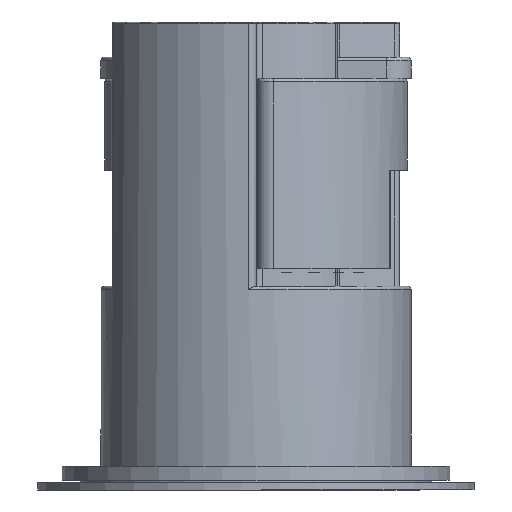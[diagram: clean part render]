
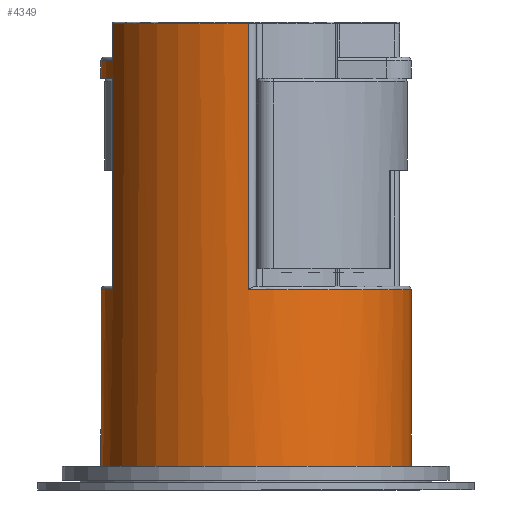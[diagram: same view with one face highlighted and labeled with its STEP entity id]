
A CAD part, front view. The second image highlights one B-rep face of the part: STEP entity #4349.
In plain terms, the highlighted cylindrical face has radius 22 mm (diameter 44 mm), a full revolution.
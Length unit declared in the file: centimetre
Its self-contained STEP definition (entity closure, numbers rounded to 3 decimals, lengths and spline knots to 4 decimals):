
#173=LINE('',#6755,#450);
#174=LINE('',#6757,#451);
#175=LINE('',#6761,#452);
#176=LINE('',#6765,#453);
#177=LINE('',#6769,#454);
#178=LINE('',#6773,#455);
#179=LINE('',#6778,#456);
#180=LINE('',#6782,#457);
#181=LINE('',#6786,#458);
#450=VECTOR('',#5248,1.);
#451=VECTOR('',#5249,1.);
#452=VECTOR('',#5252,1.);
#453=VECTOR('',#5255,1.);
#454=VECTOR('',#5258,1.);
#455=VECTOR('',#5261,2.2);
#456=VECTOR('',#5266,1.);
#457=VECTOR('',#5269,1.);
#458=VECTOR('',#5272,1.);
#727=CYLINDRICAL_SURFACE('',#4639,2.2);
#839=FACE_OUTER_BOUND('',#1103,.T.);
#1103=EDGE_LOOP('',(#2776,#2777,#2778,#2779,#2780,#2781,#2782,#2783,#2784,
#2785,#2786,#2787,#2788,#2789,#2790,#2791,#2792,#2793,#2794,#2795));
#1391=CIRCLE('',#4637,2.2);
#1393=CIRCLE('',#4640,2.2);
#1394=CIRCLE('',#4641,2.2);
#1395=CIRCLE('',#4642,2.2);
#1396=CIRCLE('',#4643,2.2);
#1397=CIRCLE('',#4644,2.2);
#1398=CIRCLE('',#4645,2.2);
#1399=CIRCLE('',#4646,2.2);
#1400=CIRCLE('',#4647,2.2);
#1401=CIRCLE('',#4648,2.2);
#1736=VERTEX_POINT('',#6724);
#1737=VERTEX_POINT('',#6737);
#1739=VERTEX_POINT('',#6754);
#1740=VERTEX_POINT('',#6756);
#1741=VERTEX_POINT('',#6758);
#1742=VERTEX_POINT('',#6760);
#1743=VERTEX_POINT('',#6762);
#1744=VERTEX_POINT('',#6764);
#1745=VERTEX_POINT('',#6766);
#1746=VERTEX_POINT('',#6768);
#1747=VERTEX_POINT('',#6770);
#1748=VERTEX_POINT('',#6772);
#1749=VERTEX_POINT('',#6775);
#1750=VERTEX_POINT('',#6777);
#1751=VERTEX_POINT('',#6779);
#1752=VERTEX_POINT('',#6781);
#1753=VERTEX_POINT('',#6783);
#1754=VERTEX_POINT('',#6785);
#2140=EDGE_CURVE('',#1736,#1737,#1391,.T.);
#2143=EDGE_CURVE('',#1737,#1739,#173,.T.);
#2144=EDGE_CURVE('',#1740,#1736,#174,.T.);
#2145=EDGE_CURVE('',#1741,#1740,#1393,.T.);
#2146=EDGE_CURVE('',#1742,#1741,#175,.T.);
#2147=EDGE_CURVE('',#1743,#1742,#1394,.T.);
#2148=EDGE_CURVE('',#1743,#1744,#176,.T.);
#2149=EDGE_CURVE('',#1745,#1744,#1395,.T.);
#2150=EDGE_CURVE('',#1746,#1745,#177,.T.);
#2151=EDGE_CURVE('',#1747,#1746,#1396,.T.);
#2152=EDGE_CURVE('',#1747,#1748,#178,.T.);
#2153=EDGE_CURVE('',#1748,#1748,#1397,.T.);
#2154=EDGE_CURVE('',#1749,#1747,#1398,.T.);
#2155=EDGE_CURVE('',#1750,#1749,#179,.T.);
#2156=EDGE_CURVE('',#1751,#1750,#1399,.T.);
#2157=EDGE_CURVE('',#1752,#1751,#180,.T.);
#2158=EDGE_CURVE('',#1753,#1752,#1400,.T.);
#2159=EDGE_CURVE('',#1753,#1754,#181,.T.);
#2160=EDGE_CURVE('',#1739,#1754,#1401,.T.);
#2776=ORIENTED_EDGE('',*,*,#2143,.F.);
#2777=ORIENTED_EDGE('',*,*,#2140,.F.);
#2778=ORIENTED_EDGE('',*,*,#2144,.F.);
#2779=ORIENTED_EDGE('',*,*,#2145,.F.);
#2780=ORIENTED_EDGE('',*,*,#2146,.F.);
#2781=ORIENTED_EDGE('',*,*,#2147,.F.);
#2782=ORIENTED_EDGE('',*,*,#2148,.T.);
#2783=ORIENTED_EDGE('',*,*,#2149,.F.);
#2784=ORIENTED_EDGE('',*,*,#2150,.F.);
#2785=ORIENTED_EDGE('',*,*,#2151,.F.);
#2786=ORIENTED_EDGE('',*,*,#2152,.T.);
#2787=ORIENTED_EDGE('',*,*,#2153,.T.);
#2788=ORIENTED_EDGE('',*,*,#2152,.F.);
#2789=ORIENTED_EDGE('',*,*,#2154,.F.);
#2790=ORIENTED_EDGE('',*,*,#2155,.F.);
#2791=ORIENTED_EDGE('',*,*,#2156,.F.);
#2792=ORIENTED_EDGE('',*,*,#2157,.F.);
#2793=ORIENTED_EDGE('',*,*,#2158,.F.);
#2794=ORIENTED_EDGE('',*,*,#2159,.T.);
#2795=ORIENTED_EDGE('',*,*,#2160,.F.);
#4349=ADVANCED_FACE('',(#839),#727,.T.);
#4637=AXIS2_PLACEMENT_3D('',#6738,#5242,#5243);
#4639=AXIS2_PLACEMENT_3D('',#6753,#5246,#5247);
#4640=AXIS2_PLACEMENT_3D('',#6759,#5250,#5251);
#4641=AXIS2_PLACEMENT_3D('',#6763,#5253,#5254);
#4642=AXIS2_PLACEMENT_3D('',#6767,#5256,#5257);
#4643=AXIS2_PLACEMENT_3D('',#6771,#5259,#5260);
#4644=AXIS2_PLACEMENT_3D('',#6774,#5262,#5263);
#4645=AXIS2_PLACEMENT_3D('',#6776,#5264,#5265);
#4646=AXIS2_PLACEMENT_3D('',#6780,#5267,#5268);
#4647=AXIS2_PLACEMENT_3D('',#6784,#5270,#5271);
#4648=AXIS2_PLACEMENT_3D('',#6787,#5273,#5274);
#5242=DIRECTION('center_axis',(0.,0.,
1.));
#5243=DIRECTION('ref_axis',(-0.819,0.574,0.));
#5246=DIRECTION('center_axis',(0.,0.,
1.));
#5247=DIRECTION('ref_axis',(-1.,0.,0.));
#5248=DIRECTION('',(0.,0.,1.));
#5249=DIRECTION('',(0.,0.,-1.));
#5250=DIRECTION('center_axis',(0.,0.,
1.));
#5251=DIRECTION('ref_axis',(0.574,0.819,0.));
#5252=DIRECTION('',(0.,0.,1.));
#5253=DIRECTION('center_axis',(0.,0.,
1.));
#5254=DIRECTION('ref_axis',(0.98,0.197,0.));
#5255=DIRECTION('',(0.,0.,-1.));
#5256=DIRECTION('center_axis',(0.,0.,
-1.));
#5257=DIRECTION('ref_axis',(-0.048,-0.999,0.));
#5258=DIRECTION('',(0.,0.,1.));
#5259=DIRECTION('center_axis',(0.,0.,
1.));
#5260=DIRECTION('ref_axis',(0.819,-0.574,0.));
#5261=DIRECTION('',(0.,0.,-1.));
#5262=DIRECTION('center_axis',(0.,0.,
1.));
#5263=DIRECTION('ref_axis',(1.,0.,0.));
#5264=DIRECTION('center_axis',(0.,0.,
1.));
#5265=DIRECTION('ref_axis',(0.819,-0.574,0.));
#5266=DIRECTION('',(0.,0.,-1.));
#5267=DIRECTION('center_axis',(0.,0.,
1.));
#5268=DIRECTION('ref_axis',(-0.574,-0.819,0.));
#5269=DIRECTION('',(0.,0.,1.));
#5270=DIRECTION('center_axis',(0.,0.,
1.));
#5271=DIRECTION('ref_axis',(-0.98,-0.197,0.));
#5272=DIRECTION('',(0.,0.,-1.));
#5273=DIRECTION('center_axis',(0.,0.,
-1.));
#5274=DIRECTION('ref_axis',(0.048,0.999,0.));
#6724=CARTESIAN_POINT('',(0.1048,2.1975,2.5));
#6737=CARTESIAN_POINT('',(-2.0291,-0.85,2.5));
#6738=CARTESIAN_POINT('Origin',(0.,0.,
2.5));
#6753=CARTESIAN_POINT('Origin',(0.,0.,
1.275));
#6754=CARTESIAN_POINT('',(-2.0291,-0.85,5.5));
#6755=CARTESIAN_POINT('',(-2.0291,-0.85,1.275));
#6756=CARTESIAN_POINT('',(0.1048,2.1975,6.275));
#6757=CARTESIAN_POINT('',(0.1048,2.1975,1.275));
#6758=CARTESIAN_POINT('',(2.0291,0.85,6.275));
#6759=CARTESIAN_POINT('Origin',(0.,0.,
6.275));
#6760=CARTESIAN_POINT('',(2.0291,0.85,5.75));
#6761=CARTESIAN_POINT('',(2.0291,0.85,1.275));
#6762=CARTESIAN_POINT('',(2.2,0.,5.75));
#6763=CARTESIAN_POINT('Origin',(0.,0.,
5.75));
#6764=CARTESIAN_POINT('',(2.2,0.,5.5));
#6765=CARTESIAN_POINT('',(2.2,0.,5.8));
#6766=CARTESIAN_POINT('',(2.0291,0.85,5.5));
#6767=CARTESIAN_POINT('Origin',(0.,0.,
5.5));
#6768=CARTESIAN_POINT('',(2.0291,0.85,2.5));
#6769=CARTESIAN_POINT('',(2.0291,0.85,1.275));
#6770=CARTESIAN_POINT('',(2.2,0.,2.5));
#6771=CARTESIAN_POINT('Origin',(0.,0.,
2.5));
#6772=CARTESIAN_POINT('',(2.2,0.,0.));
#6773=CARTESIAN_POINT('',(2.2,0.,1.275));
#6774=CARTESIAN_POINT('Origin',(0.,0.,
0.));
#6775=CARTESIAN_POINT('',(-0.1048,-2.1975,2.5));
#6776=CARTESIAN_POINT('Origin',(0.,0.,
2.5));
#6777=CARTESIAN_POINT('',(-0.1048,-2.1975,6.275));
#6778=CARTESIAN_POINT('',(-0.1048,-2.1975,1.275));
#6779=CARTESIAN_POINT('',(-2.0291,-0.85,6.275));
#6780=CARTESIAN_POINT('Origin',(0.,0.,
6.275));
#6781=CARTESIAN_POINT('',(-2.0291,-0.85,5.75));
#6782=CARTESIAN_POINT('',(-2.0291,-0.85,1.275));
#6783=CARTESIAN_POINT('',(-2.2,0.,5.75));
#6784=CARTESIAN_POINT('Origin',(0.,0.,
5.75));
#6785=CARTESIAN_POINT('',(-2.2,0.,5.5));
#6786=CARTESIAN_POINT('',(-2.2,0.,5.8));
#6787=CARTESIAN_POINT('Origin',(0.,0.,
5.5));
